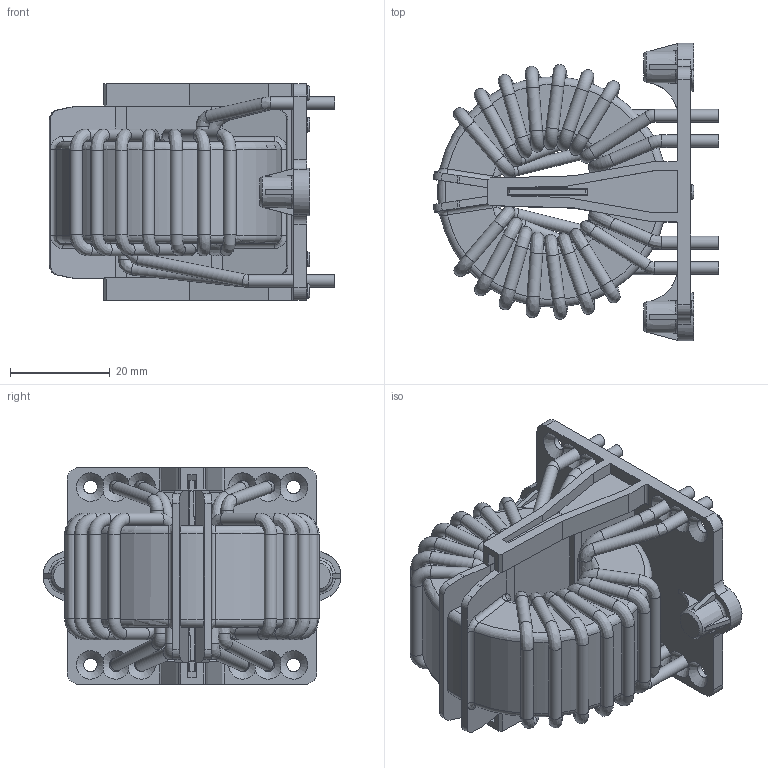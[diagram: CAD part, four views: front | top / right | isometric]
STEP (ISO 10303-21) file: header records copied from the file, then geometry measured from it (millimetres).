
FILE_DESCRIPTION((''),'2;1');
FILE_NAME('K:\Development\Projects\RB\Angel_standard choke series 2011\70_Realization_Revision\702_MechanicalDesign\Drawing for Harald\RB6522\RB6522-50-0M3.stp','2012-11-16T16:54:21',('BIN.FAN'),(''),'Autodesk Inventor 2010','Autodesk Inventor 2010','');
FILE_SCHEMA(('AUTOMOTIVE_DESIGN { 1 0 10303 214 1 1 1 1 }'));
Length unit declared in the file: millimetre
Products named in the file (1): RB6522-50-0M3  for customer_包覆面提取_1
Bounding box: 57.07 x 59.58 x 43.4 mm (x, y, z)
Volume: 42671.1 mm3; surface area: 28939.4 mm2
Topology: 1 solids, 1 shells, 944 faces, 2679 edges, 1658 vertices
Faces by surface type: plane 418, cylinder 203, bspline 170, torus 115, cone 38
Full cylindrical faces by diameter (mm): 2.5 x37, 2.7 x12, 3 x6, 9.6 x2
Entity records: 36818 total; most frequent: CARTESIAN_POINT 13344, ORIENTED_EDGE 4972, DIRECTION 4207, EDGE_CURVE 2486, VERTEX_POINT 1578, AXIS2_PLACEMENT_3D 1472, VECTOR 1263, LINE 1263
